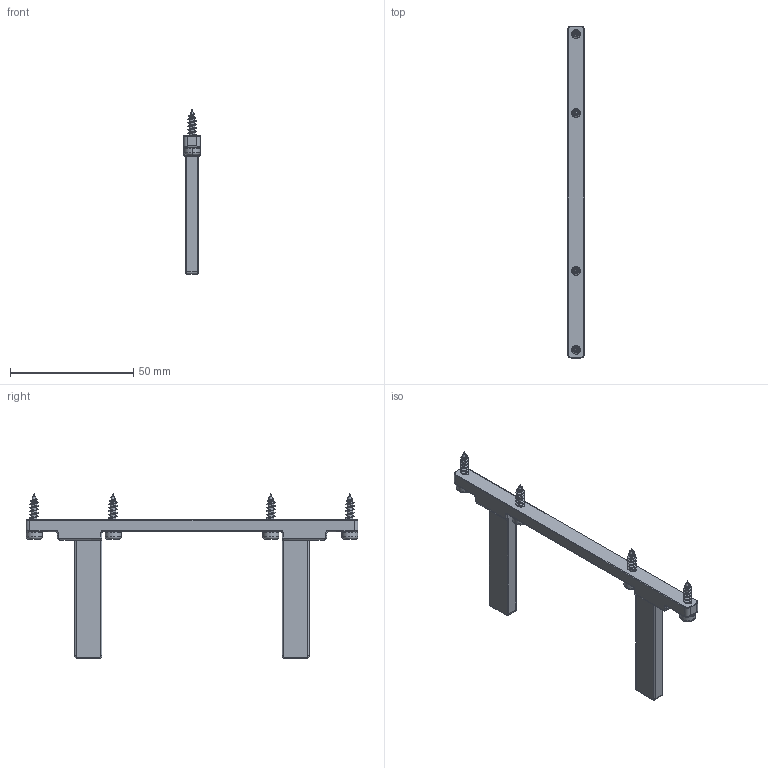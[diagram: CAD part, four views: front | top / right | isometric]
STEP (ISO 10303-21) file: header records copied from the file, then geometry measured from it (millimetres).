
FILE_DESCRIPTION (( 'STEP AP203' ), '1' );
FILE_NAME ('TB03011.STEP', '2020-09-14T01:04:09', ( 'Users' ), ( 'Microsoft' ), 'SwSTEP 2.0', 'SolidWorks 2018', '' );
FILE_SCHEMA (( 'CONFIG_CONTROL_DESIGN' ));
Length unit declared in the file: millimetre
Products named in the file (1): TB03011
Bounding box: 6.8 x 134.6 x 66.8 mm (x, y, z)
Volume: 11216.8 mm3; surface area: 7195.8 mm2
Topology: 1 solids, 1 shells, 434 faces, 1142 edges, 704 vertices
Faces by surface type: plane 164, cylinder 124, torus 76, bspline 38, cone 24, sphere 8
Entity records: 20221 total; most frequent: CARTESIAN_POINT 10417, ORIENTED_EDGE 2256, DIRECTION 1772, EDGE_CURVE 1128, VERTEX_POINT 704, AXIS2_PLACEMENT_3D 703, EDGE_LOOP 442, ADVANCED_FACE 434
